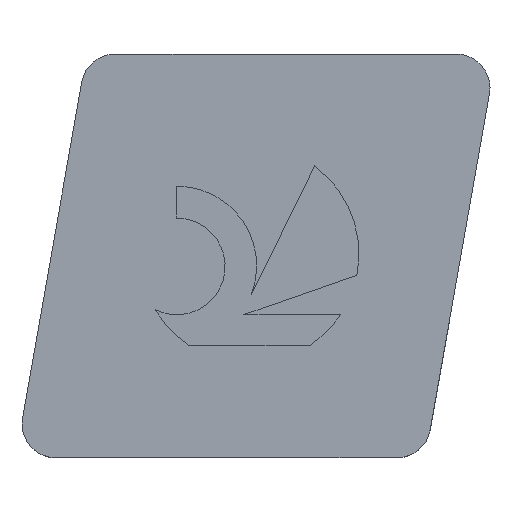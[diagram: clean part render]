
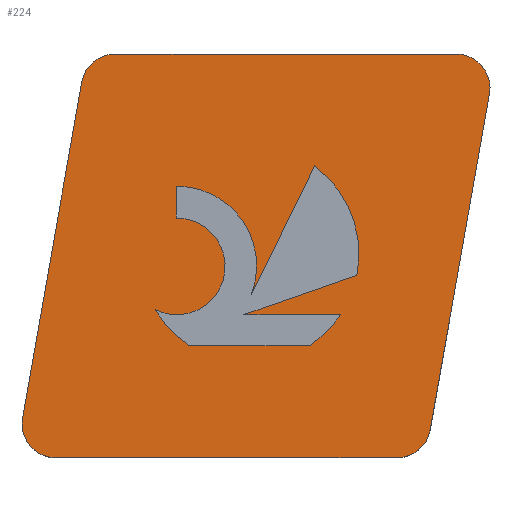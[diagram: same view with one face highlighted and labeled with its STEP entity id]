
A CAD part, top view. The second image highlights one B-rep face of the part: STEP entity #224.
In plain terms, the highlighted planar face has unit normal (0, 0, 1).
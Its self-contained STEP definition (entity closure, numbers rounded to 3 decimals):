
#142=VERTEX_POINT('',#394);
#144=EDGE_CURVE('',#356,#172,#396,.T.);
#146=VERTEX_POINT('',#398);
#152=VERTEX_POINT('',#405);
#158=EDGE_CURVE('',#312,#326,#411,.T.);
#164=VERTEX_POINT('',#418);
#172=VERTEX_POINT('',#427);
#190=EDGE_CURVE('',#172,#146,#449,.T.);
#198=VERTEX_POINT('',#459);
#200=EDGE_CURVE('',#326,#214,#461,.T.);
#212=EDGE_CURVE('',#164,#142,#476,.T.);
#214=VERTEX_POINT('',#478);
#224=ADVANCED_FACE('',(#488,#489),#490,.T.);
#226=VERTEX_POINT('',#492);
#228=EDGE_CURVE('',#306,#262,#494,.T.);
#232=VERTEX_POINT('',#499);
#236=VERTEX_POINT('',#503);
#248=EDGE_CURVE('',#236,#164,#516,.T.);
#262=VERTEX_POINT('',#532);
#274=EDGE_CURVE('',#346,#356,#546,.T.);
#288=EDGE_CURVE('',#146,#354,#560,.T.);
#290=EDGE_CURVE('',#362,#312,#562,.T.);
#294=EDGE_CURVE('',#354,#306,#566,.T.);
#296=EDGE_CURVE('',#302,#226,#568,.T.);
#298=EDGE_CURVE('',#232,#152,#570,.T.);
#302=VERTEX_POINT('',#574);
#306=VERTEX_POINT('',#578);
#312=VERTEX_POINT('',#585);
#326=VERTEX_POINT('',#600);
#334=EDGE_CURVE('',#142,#362,#608,.T.);
#336=EDGE_CURVE('',#214,#302,#610,.T.);
#344=EDGE_CURVE('',#226,#232,#618,.T.);
#346=VERTEX_POINT('',#620);
#350=EDGE_CURVE('',#262,#198,#624,.T.);
#352=EDGE_CURVE('',#152,#236,#626,.T.);
#354=VERTEX_POINT('',#628);
#356=VERTEX_POINT('',#630);
#362=VERTEX_POINT('',#636);
#372=EDGE_CURVE('',#198,#346,#646,.T.);
#394=CARTESIAN_POINT('',(4.112,2.64,0.0));
#396=CIRCLE('',#662,0.794);
#398=CARTESIAN_POINT('',(11.187,8.593,0.0));
#405=CARTESIAN_POINT('',(5.39,3.376,0.0));
#411=CIRCLE('',#681,1.141);
#418=CARTESIAN_POINT('',(6.93,2.64,0.0));
#427=CARTESIAN_POINT('',(9.788,0.656,0.0));
#449=LINE('',#726,#727);
#459=CARTESIAN_POINT('',(0.164,0.932,0.0));
#461=LINE('',#742,#743);
#476=LINE('',#762,#763);
#478=CARTESIAN_POINT('',(3.798,6.406,0.0));
#488=FACE_BOUND('',#782,.T.);
#489=FACE_OUTER_BOUND('',#783,.T.);
#490=PLANE('',#784);
#492=CARTESIAN_POINT('',(7.06,6.885,0.0));
#494=CIRCLE('',#789,0.794);
#499=CARTESIAN_POINT('',(8.057,4.302,0.0));
#503=CARTESIAN_POINT('',(7.674,3.376,0.0));
#516=CIRCLE('',#821,2.586);
#532=CARTESIAN_POINT('',(1.564,8.869,0.0));
#546=LINE('',#862,#863);
#560=CIRCLE('',#884,0.794);
#562=CIRCLE('',#887,1.141);
#566=LINE('',#892,#893);
#568=LINE('',#896,#897);
#570=LINE('',#900,#901);
#574=CARTESIAN_POINT('',(5.565,3.853,0.0));
#578=CARTESIAN_POINT('',(2.346,9.525,0.0));
#585=CARTESIAN_POINT('',(4.316,5.535,0.0));
#600=CARTESIAN_POINT('',(3.798,5.655,0.0));
#608=CIRCLE('',#951,2.586);
#610=CIRCLE('',#954,1.878);
#618=CIRCLE('',#965,2.586);
#620=CARTESIAN_POINT('',(0.946,0.0,0.0));
#624=LINE('',#972,#973);
#626=LINE('',#976,#977);
#628=CARTESIAN_POINT('',(10.405,9.525,0.0));
#630=CARTESIAN_POINT('',(9.006,0.0,0.0));
#636=CARTESIAN_POINT('',(3.294,3.493,0.0));
#646=CIRCLE('',#1002,0.794);
#662=AXIS2_PLACEMENT_3D('',#1011,#1012,#1013);
#681=AXIS2_PLACEMENT_3D('',#1025,#1026,#1027);
#726=CARTESIAN_POINT('',(9.788,0.656,0.0));
#727=VECTOR('',#1084,1.0);
#742=CARTESIAN_POINT('',(3.798,5.584,0.0));
#743=VECTOR('',#1102,1.0);
#762=CARTESIAN_POINT('',(4.894,2.64,0.0));
#763=VECTOR('',#1131,1.0);
#782=EDGE_LOOP('',(#1139,#1140,#1141,#1142,#1143,#1144,#1145,#1146,#1147,#1148,#1149));
#783=EDGE_LOOP('',(#1150,#1151,#1152,#1153,#1154,#1155,#1156,#1157));
#784=AXIS2_PLACEMENT_3D('',#1158,#1159,#1160);
#789=AXIS2_PLACEMENT_3D('',#1161,#1162,#1163);
#821=AXIS2_PLACEMENT_3D('',#1191,#1192,#1193);
#862=CARTESIAN_POINT('',(0.946,0.0,0.0));
#863=VECTOR('',#1236,1.0);
#884=AXIS2_PLACEMENT_3D('',#1245,#1246,#1247);
#887=AXIS2_PLACEMENT_3D('',#1248,#1249,#1250);
#892=CARTESIAN_POINT('',(10.405,9.525,0.0));
#893=VECTOR('',#1251,1.0);
#896=CARTESIAN_POINT('',(6.504,5.757,0.0));
#897=VECTOR('',#1252,1.0);
#900=CARTESIAN_POINT('',(5.732,3.495,0.0));
#901=VECTOR('',#1253,1.0);
#951=AXIS2_PLACEMENT_3D('',#1285,#1286,#1287);
#954=AXIS2_PLACEMENT_3D('',#1288,#1289,#1290);
#965=AXIS2_PLACEMENT_3D('',#1292,#1293,#1294);
#972=CARTESIAN_POINT('',(1.564,8.869,0.0));
#973=VECTOR('',#1295,1.0);
#976=CARTESIAN_POINT('',(6.675,3.376,0.0));
#977=VECTOR('',#1296,1.0);
#1002=AXIS2_PLACEMENT_3D('',#1299,#1300,#1301);
#1011=CARTESIAN_POINT('',(9.006,0.794,0.0));
#1012=DIRECTION('',(0.0,0.0,1.0));
#1013=DIRECTION('',(0.,-1.0,0.0));
#1025=CARTESIAN_POINT('',(3.805,4.514,0.0));
#1026=DIRECTION('',(0.0,0.0,1.0));
#1027=DIRECTION('',(-0.447,-0.894,0.0));
#1084=DIRECTION('',(0.174,0.985,0.0));
#1102=DIRECTION('',(0.0,1.0,0.0));
#1131=DIRECTION('',(-1.0,0.0,0.0));
#1139=ORIENTED_EDGE('',*,*,#200,.T.);
#1140=ORIENTED_EDGE('',*,*,#336,.T.);
#1141=ORIENTED_EDGE('',*,*,#296,.T.);
#1142=ORIENTED_EDGE('',*,*,#344,.T.);
#1143=ORIENTED_EDGE('',*,*,#298,.T.);
#1144=ORIENTED_EDGE('',*,*,#352,.T.);
#1145=ORIENTED_EDGE('',*,*,#248,.T.);
#1146=ORIENTED_EDGE('',*,*,#212,.T.);
#1147=ORIENTED_EDGE('',*,*,#334,.T.);
#1148=ORIENTED_EDGE('',*,*,#290,.T.);
#1149=ORIENTED_EDGE('',*,*,#158,.T.);
#1150=ORIENTED_EDGE('',*,*,#274,.T.);
#1151=ORIENTED_EDGE('',*,*,#144,.T.);
#1152=ORIENTED_EDGE('',*,*,#190,.T.);
#1153=ORIENTED_EDGE('',*,*,#288,.T.);
#1154=ORIENTED_EDGE('',*,*,#294,.T.);
#1155=ORIENTED_EDGE('',*,*,#228,.T.);
#1156=ORIENTED_EDGE('',*,*,#350,.T.);
#1157=ORIENTED_EDGE('',*,*,#372,.T.);
#1158=CARTESIAN_POINT('',(5.676,4.763,0.0));
#1159=DIRECTION('',(0.0,0.0,1.0));
#1160=DIRECTION('',(1.0,0.0,0.0));
#1161=CARTESIAN_POINT('',(2.346,8.731,0.0));
#1162=DIRECTION('',(0.0,0.0,1.0));
#1163=DIRECTION('',(0.,1.0,0.0));
#1191=CARTESIAN_POINT('',(5.521,4.808,0.0));
#1192=DIRECTION('',(0.0,-0.0,-1.0));
#1193=DIRECTION('',(0.545,-0.838,0.0));
#1236=DIRECTION('',(1.0,0.0,0.0));
#1245=CARTESIAN_POINT('',(10.405,8.731,0.0));
#1246=DIRECTION('',(-0.0,0.0,1.0));
#1247=DIRECTION('',(0.985,-0.174,0.0));
#1248=CARTESIAN_POINT('',(3.805,4.514,0.0));
#1249=DIRECTION('',(0.0,0.0,1.0));
#1250=DIRECTION('',(-0.447,-0.894,0.0));
#1251=DIRECTION('',(-1.0,0.0,0.0));
#1252=DIRECTION('',(0.442,0.897,-0.0));
#1253=DIRECTION('',(-0.945,-0.328,0.0));
#1285=CARTESIAN_POINT('',(5.521,4.808,0.0));
#1286=DIRECTION('',(-0.0,0.0,-1.0));
#1287=DIRECTION('',(-0.861,-0.508,0.0));
#1288=CARTESIAN_POINT('',(3.812,4.528,0.0));
#1289=DIRECTION('',(0.0,-0.0,-1.0));
#1290=DIRECTION('',(0.933,-0.359,0.0));
#1292=CARTESIAN_POINT('',(5.521,4.808,0.0));
#1293=DIRECTION('',(0.0,-0.0,-1.0));
#1294=DIRECTION('',(0.981,-0.196,0.0));
#1295=DIRECTION('',(-0.174,-0.985,0.0));
#1296=DIRECTION('',(1.0,0.0,0.0));
#1299=CARTESIAN_POINT('',(0.946,0.794,0.0));
#1300=DIRECTION('',(0.0,0.0,1.0));
#1301=DIRECTION('',(-0.985,0.174,0.0));
